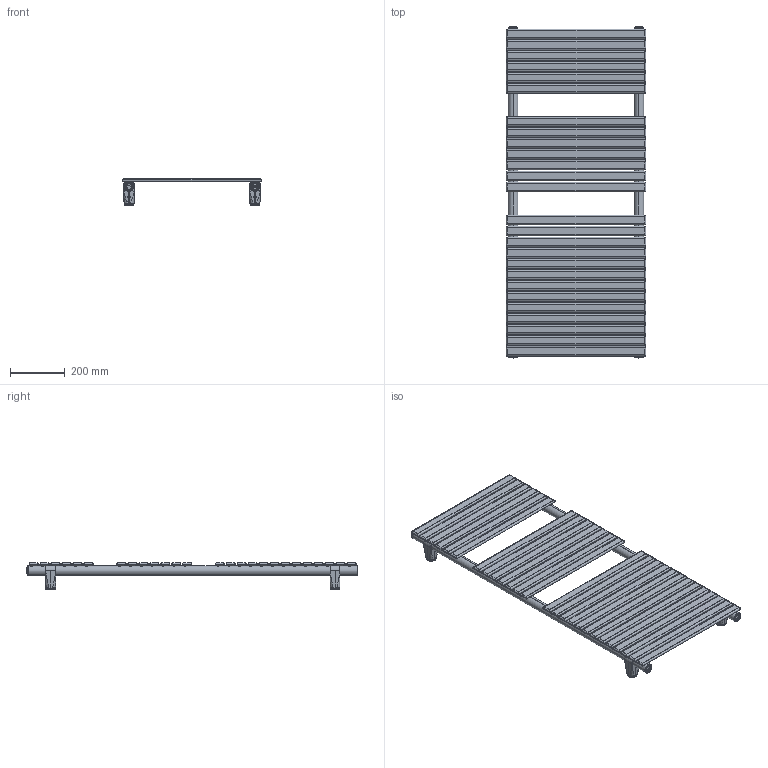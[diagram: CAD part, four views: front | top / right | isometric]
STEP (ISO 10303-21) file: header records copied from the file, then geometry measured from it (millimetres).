
FILE_DESCRIPTION (( 'STEP AP203' ), '1' );
FILE_NAME ('351251.STEP', '2026-03-05T08:07:55', ( '' ), ( '' ), 'SwSTEP 2.0', 'SolidWorks 2025', '' );
FILE_SCHEMA (( 'CONFIG_CONTROL_DESIGN' ));
Length unit declared in the file: millimetre
Products named in the file (10): tappo_sx.prt; supporto_3.prt; supporto_1.prt; COLLETTORE INT 40 [Con configurazioni]_1207; supporto-MANINA-BUS; tappo_sfiato.prt; TRAVERSINO PIATTO 35 [Con configurazioni]_510; 351251; supporto.asm; supporto_2.prt
Assembly tree (38 placements, depth 4):
  351251
    TRAVERSINO PIATTO 35 [Con configurazioni]_510  x26
    COLLETTORE INT 40 [Con configurazioni]_1207  x2
    tappo_sfiato.prt
    tappo_sx.prt
    supporto-MANINA-BUS  x4
      supporto.asm
        supporto_1.prt
        supporto_2.prt
        supporto_3.prt
Bounding box: 510 x 1213 x 97 mm (x, y, z)
Volume: 2188225.6 mm3; surface area: 2699326.2 mm2
Topology: 40 solids, 44 shells, 2377 faces, 6148 edges, 3805 vertices
Faces by surface type: plane 842, cylinder 804, bspline 337, cone 210, torus 128, sphere 56
Entity records: 33100 total; most frequent: CARTESIAN_POINT 20798, ORIENTED_EDGE 2556, DIRECTION 1618, EDGE_CURVE 1282, VERTEX_POINT 771, B_SPLINE_CURVE_WITH_KNOTS 685, AXIS2_PLACEMENT_3D 645, EDGE_LOOP 508
